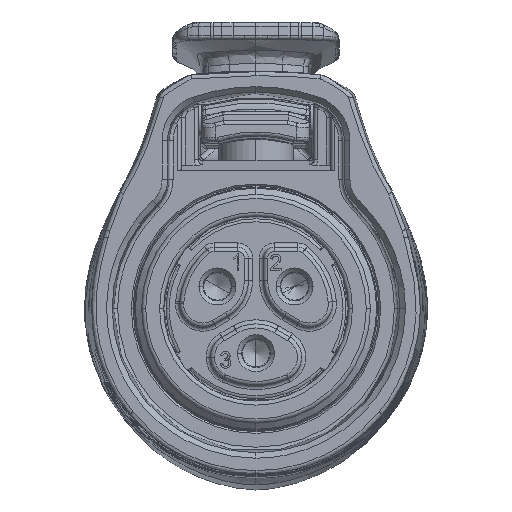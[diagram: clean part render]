
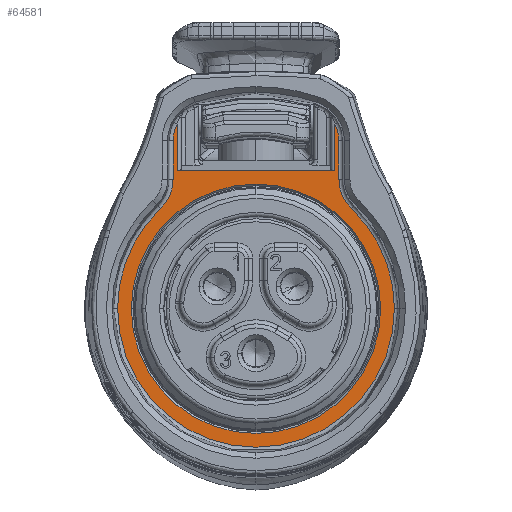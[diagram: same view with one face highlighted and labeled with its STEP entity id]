
A CAD part, left-side view. The second image highlights one B-rep face of the part: STEP entity #64581.
In plain terms, the highlighted planar face has unit normal (-1, 0, 0).
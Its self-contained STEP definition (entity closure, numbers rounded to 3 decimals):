
#1035 = EDGE_CURVE ( 'NONE', #5065, #20168, #56647, .T. ) ;
#2661 = CARTESIAN_POINT ( 'NONE',  ( 5.569, -6.967, 27.999 ) ) ;
#2726 = LINE ( 'NONE', #25549, #31197 ) ;
#3038 = CARTESIAN_POINT ( 'NONE',  ( 5.569, 9., 30.133 ) ) ;
#4600 = AXIS2_PLACEMENT_3D ( 'NONE', #23063, #16445, #45396 ) ;
#5065 = VERTEX_POINT ( 'NONE', #42350 ) ;
#5287 = VERTEX_POINT ( 'NONE', #22388 ) ;
#5465 = DIRECTION ( 'NONE',  ( -1., 0., 0. ) ) ;
#6944 = ORIENTED_EDGE ( 'NONE', *, *, #46987, .T. ) ;
#8852 = EDGE_CURVE ( 'NONE', #88722, #5065, #45917, .T. ) ;
#9523 = CIRCLE ( 'NONE', #11183, 10.103 ) ;
#10318 = DIRECTION ( 'NONE',  ( 0., 0., -1. ) ) ;
#11183 = AXIS2_PLACEMENT_3D ( 'NONE', #45530, #5465, #67323 ) ;
#11235 = ORIENTED_EDGE ( 'NONE', *, *, #26343, .T. ) ;
#11301 = AXIS2_PLACEMENT_3D ( 'NONE', #11455, #34784, #19067 ) ;
#11455 = CARTESIAN_POINT ( 'NONE',  ( 5.569, -9., 30.133 ) ) ;
#14719 = ORIENTED_EDGE ( 'NONE', *, *, #36732, .T. ) ;
#15168 = CARTESIAN_POINT ( 'NONE',  ( 5.569, -5.752, 32.859 ) ) ;
#16445 = DIRECTION ( 'NONE',  ( -1., 0., 0. ) ) ;
#18363 = AXIS2_PLACEMENT_3D ( 'NONE', #3038, #78215, #23512 ) ;
#19067 = DIRECTION ( 'NONE',  ( 0., -1., 0. ) ) ;
#19668 = CARTESIAN_POINT ( 'NONE',  ( 5.569, -3.5, 32.959 ) ) ;
#20168 = VERTEX_POINT ( 'NONE', #84603 ) ;
#20502 = DIRECTION ( 'NONE',  ( 0., -1., 0. ) ) ;
#21275 = DIRECTION ( 'NONE',  ( 0., -1., 0. ) ) ;
#22388 = CARTESIAN_POINT ( 'NONE',  ( 5.569, -10.103, 20.683 ) ) ;
#23063 = CARTESIAN_POINT ( 'NONE',  ( 5.569, 0., 20.683 ) ) ;
#23512 = DIRECTION ( 'NONE',  ( 0., -1., 0. ) ) ;
#24895 = LINE ( 'NONE', #55836, #25603 ) ;
#24985 = DIRECTION ( 'NONE',  ( -1., 0., 0. ) ) ;
#25549 = CARTESIAN_POINT ( 'NONE',  ( 5.569, 6.053, 30.133 ) ) ;
#25603 = VECTOR ( 'NONE', #86710, 1000. ) ;
#26343 = EDGE_CURVE ( 'NONE', #57969, #75958, #47003, .T. ) ;
#27914 = AXIS2_PLACEMENT_3D ( 'NONE', #61971, #38672, #62460 ) ;
#28406 = VERTEX_POINT ( 'NONE', #72966 ) ;
#29748 = EDGE_CURVE ( 'NONE', #33582, #96369, #46557, .T. ) ;
#30333 = AXIS2_PLACEMENT_3D ( 'NONE', #61935, #70037, #92836 ) ;
#30877 = CARTESIAN_POINT ( 'NONE',  ( 5.569, -6.053, 32.959 ) ) ;
#30894 = LINE ( 'NONE', #15168, #58417 ) ;
#31197 = VECTOR ( 'NONE', #10318, 1000. ) ;
#33420 = EDGE_CURVE ( 'NONE', #34891, #33582, #24895, .T. ) ;
#33582 = VERTEX_POINT ( 'NONE', #89460 ) ;
#34784 = DIRECTION ( 'NONE',  ( 1., 0., 0. ) ) ;
#34891 = VERTEX_POINT ( 'NONE', #44673 ) ;
#35727 = EDGE_CURVE ( 'NONE', #5287, #46262, #96860, .T. ) ;
#36732 = EDGE_CURVE ( 'NONE', #20168, #5287, #9523, .T. ) ;
#37880 = CARTESIAN_POINT ( 'NONE',  ( 5.569, 9.1, 20.683 ) ) ;
#38399 = CARTESIAN_POINT ( 'NONE',  ( 5.569, -6.053, 32.959 ) ) ;
#38636 = EDGE_CURVE ( 'NONE', #28406, #34891, #66861, .T. ) ;
#38672 = DIRECTION ( 'NONE',  ( 1., 0., 0. ) ) ;
#38809 = VECTOR ( 'NONE', #59249, 1000. ) ;
#42350 = CARTESIAN_POINT ( 'NONE',  ( 5.569, 6.967, 27.999 ) ) ;
#43046 = ORIENTED_EDGE ( 'NONE', *, *, #95330, .T. ) ;
#44673 = CARTESIAN_POINT ( 'NONE',  ( 5.569, 5.752, 30.784 ) ) ;
#45396 = DIRECTION ( 'NONE',  ( 0., -1., 0. ) ) ;
#45530 = CARTESIAN_POINT ( 'NONE',  ( 5.569, 0., 20.683 ) ) ;
#45917 = CIRCLE ( 'NONE', #18363, 2.947 ) ;
#46262 = VERTEX_POINT ( 'NONE', #2661 ) ;
#46557 = CIRCLE ( 'NONE', #30333, 2.553 ) ;
#46882 = CIRCLE ( 'NONE', #58222, 2.553 ) ;
#46987 = EDGE_CURVE ( 'NONE', #83795, #28406, #30894, .T. ) ;
#47003 = LINE ( 'NONE', #38399, #49649 ) ;
#49104 = DIRECTION ( 'NONE',  ( -1., 0., 0. ) ) ;
#49649 = VECTOR ( 'NONE', #94081, 1000. ) ;
#50097 = VERTEX_POINT ( 'NONE', #37880 ) ;
#50224 = ORIENTED_EDGE ( 'NONE', *, *, #33420, .T. ) ;
#51562 = AXIS2_PLACEMENT_3D ( 'NONE', #97545, #90937, #20502 ) ;
#53974 = ORIENTED_EDGE ( 'NONE', *, *, #82509, .T. ) ;
#55045 = CIRCLE ( 'NONE', #11301, 2.947 ) ;
#55836 = CARTESIAN_POINT ( 'NONE',  ( 5.569, 5.752, 32.859 ) ) ;
#56647 = CIRCLE ( 'NONE', #67994, 10.103 ) ;
#57969 = VERTEX_POINT ( 'NONE', #68100 ) ;
#58222 = AXIS2_PLACEMENT_3D ( 'NONE', #19668, #49104, #96210 ) ;
#58417 = VECTOR ( 'NONE', #77013, 1000. ) ;
#59249 = DIRECTION ( 'NONE',  ( 0., 1., 0. ) ) ;
#60327 = CARTESIAN_POINT ( 'NONE',  ( 5.569, -5.752, 34.16 ) ) ;
#61935 = CARTESIAN_POINT ( 'NONE',  ( 5.569, 3.5, 32.959 ) ) ;
#61971 = CARTESIAN_POINT ( 'NONE',  ( 5.569, 0., 20.683 ) ) ;
#62460 = DIRECTION ( 'NONE',  ( 0., -1., 0. ) ) ;
#63712 = CARTESIAN_POINT ( 'NONE',  ( 5.569, 6.053, 30.133 ) ) ;
#64581 = ADVANCED_FACE ( 'NONE', ( #66916, #92239 ), #90203, .T. ) ;
#66861 = LINE ( 'NONE', #74954, #38809 ) ;
#66916 = FACE_OUTER_BOUND ( 'NONE', #76176, .T. ) ;
#67323 = DIRECTION ( 'NONE',  ( 0., -1., 0. ) ) ;
#67994 = AXIS2_PLACEMENT_3D ( 'NONE', #87803, #24985, #72613 ) ;
#68100 = CARTESIAN_POINT ( 'NONE',  ( 5.569, -6.053, 30.133 ) ) ;
#70037 = DIRECTION ( 'NONE',  ( -1., 0., 0. ) ) ;
#72298 = ORIENTED_EDGE ( 'NONE', *, *, #29748, .T. ) ;
#72613 = DIRECTION ( 'NONE',  ( 0., -1., 0. ) ) ;
#72966 = CARTESIAN_POINT ( 'NONE',  ( 5.569, -5.752, 30.784 ) ) ;
#73923 = AXIS2_PLACEMENT_3D ( 'NONE', #98324, #84637, #21275 ) ;
#74293 = EDGE_LOOP ( 'NONE', ( #95374, #78291 ) ) ;
#74954 = CARTESIAN_POINT ( 'NONE',  ( 5.569, 3.5, 30.784 ) ) ;
#75939 = CARTESIAN_POINT ( 'NONE',  ( 5.569, 6.053, 32.959 ) ) ;
#75958 = VERTEX_POINT ( 'NONE', #30877 ) ;
#76176 = EDGE_LOOP ( 'NONE', ( #85219, #50224, #72298, #43046, #84055, #98020, #14719, #86104, #77685, #11235, #53974, #6944 ) ) ;
#77013 = DIRECTION ( 'NONE',  ( 0., 0., -1. ) ) ;
#77685 = ORIENTED_EDGE ( 'NONE', *, *, #83642, .T. ) ;
#78215 = DIRECTION ( 'NONE',  ( 1., 0., 0. ) ) ;
#78291 = ORIENTED_EDGE ( 'NONE', *, *, #79746, .T. ) ;
#79441 = VERTEX_POINT ( 'NONE', #82946 ) ;
#79746 = EDGE_CURVE ( 'NONE', #50097, #79441, #93661, .T. ) ;
#82509 = EDGE_CURVE ( 'NONE', #75958, #83795, #46882, .T. ) ;
#82946 = CARTESIAN_POINT ( 'NONE',  ( 5.569, -9.1, 20.683 ) ) ;
#83642 = EDGE_CURVE ( 'NONE', #46262, #57969, #55045, .T. ) ;
#83795 = VERTEX_POINT ( 'NONE', #60327 ) ;
#84055 = ORIENTED_EDGE ( 'NONE', *, *, #8852, .T. ) ;
#84603 = CARTESIAN_POINT ( 'NONE',  ( 5.569, 10.103, 20.683 ) ) ;
#84637 = DIRECTION ( 'NONE',  ( -1., 0., 0. ) ) ;
#85219 = ORIENTED_EDGE ( 'NONE', *, *, #38636, .T. ) ;
#86104 = ORIENTED_EDGE ( 'NONE', *, *, #35727, .T. ) ;
#86228 = CIRCLE ( 'NONE', #27914, 9.1 ) ;
#86710 = DIRECTION ( 'NONE',  ( 0., 0., 1. ) ) ;
#87803 = CARTESIAN_POINT ( 'NONE',  ( 5.569, 0., 20.683 ) ) ;
#88722 = VERTEX_POINT ( 'NONE', #63712 ) ;
#89460 = CARTESIAN_POINT ( 'NONE',  ( 5.569, 5.752, 34.16 ) ) ;
#90203 = PLANE ( 'NONE',  #73923 ) ;
#90937 = DIRECTION ( 'NONE',  ( 1., 0., 0. ) ) ;
#92239 = FACE_BOUND ( 'NONE', #74293, .T. ) ;
#92836 = DIRECTION ( 'NONE',  ( 0., -1., 0. ) ) ;
#93661 = CIRCLE ( 'NONE', #51562, 9.1 ) ;
#94081 = DIRECTION ( 'NONE',  ( 0., 0., 1. ) ) ;
#94605 = EDGE_CURVE ( 'NONE', #79441, #50097, #86228, .T. ) ;
#95330 = EDGE_CURVE ( 'NONE', #96369, #88722, #2726, .T. ) ;
#95374 = ORIENTED_EDGE ( 'NONE', *, *, #94605, .T. ) ;
#96210 = DIRECTION ( 'NONE',  ( 0., -1., 0. ) ) ;
#96369 = VERTEX_POINT ( 'NONE', #75939 ) ;
#96860 = CIRCLE ( 'NONE', #4600, 10.103 ) ;
#97545 = CARTESIAN_POINT ( 'NONE',  ( 5.569, 0., 20.683 ) ) ;
#98020 = ORIENTED_EDGE ( 'NONE', *, *, #1035, .T. ) ;
#98324 = CARTESIAN_POINT ( 'NONE',  ( 5.569, 3.5, 32.859 ) ) ;
